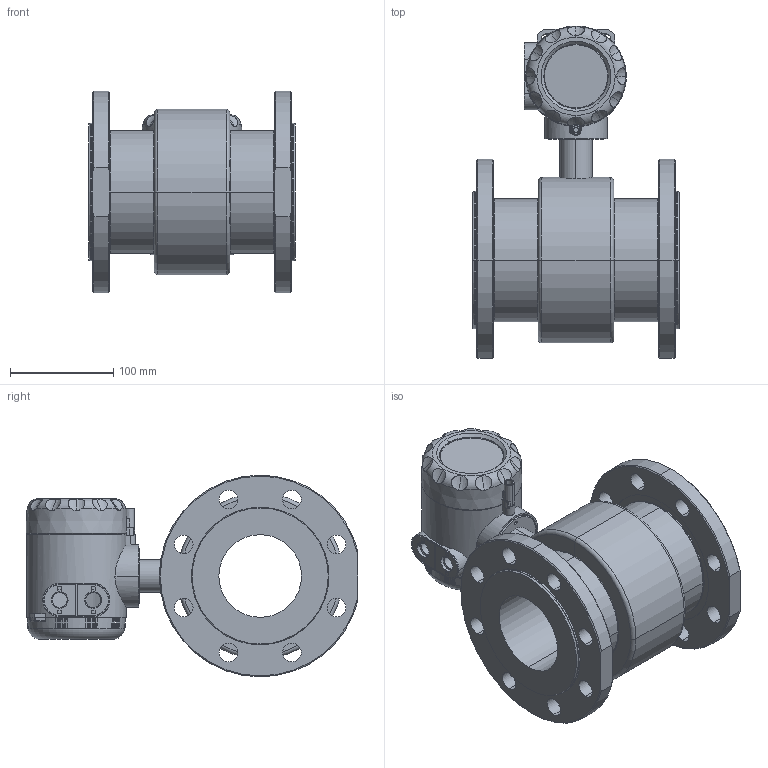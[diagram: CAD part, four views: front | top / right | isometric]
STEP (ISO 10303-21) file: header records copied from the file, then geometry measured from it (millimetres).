
FILE_DESCRIPTION (( 'STEP AP214' ), '1' );
FILE_NAME ('ﾏ頸褞ⅴ ﾏﾐﾎ80.STEP', '2021-07-23T12:48:16', ( '' ), ( '' ), 'SwSTEP 2.0', 'SolidWorks 2016', '' );
FILE_SCHEMA (( 'AUTOMOTIVE_DESIGN' ));
Length unit declared in the file: millimetre
Products named in the file (1): ﾏ頸褞ⅴ ﾏﾐﾎ80
Bounding box: 200 x 320.84 x 195 mm (x, y, z)
Surface area: 336571.1 mm2 (no closed solid volume)
Topology: 0 solids, 17 shells, 468 faces, 1497 edges, 1018 vertices
Faces by surface type: plane 161, cylinder 120, cone 119, torus 55, bspline 8, sphere 5
Entity records: 23626 total; most frequent: CARTESIAN_POINT 5406, DIRECTION 2894, ORIENTED_EDGE 2371, EDGE_CURVE 1492, AXIS2_PLACEMENT_3D 1118, VERTEX_POINT 1018, VECTOR 658, LINE 658
